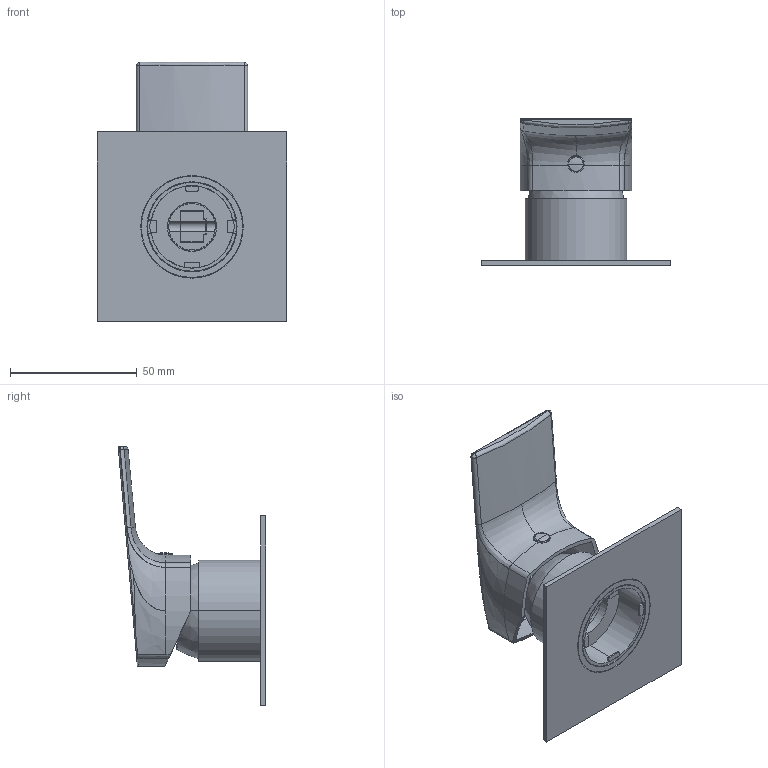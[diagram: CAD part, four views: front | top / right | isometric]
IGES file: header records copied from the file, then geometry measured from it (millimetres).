
Start section:  PTC IGES file: 75427_sw0001.igs
Global section: file name: 75427_sw0001.igs; native system: Creo Parametric by PTC Inc.; preprocessor: 2022014; author: volponeff; organization: Unknown; date: 20251007.115713; units: millimetre
Bounding box: 75 x 58.24 x 102.5 mm (x, y, z)
Surface area: 45011.6 mm2 (no closed solid volume)
Topology: 0 solids, 0 shells, 614 faces, 3498 edges, 3494 vertices
Faces by surface type: revolution 326, bspline 288
